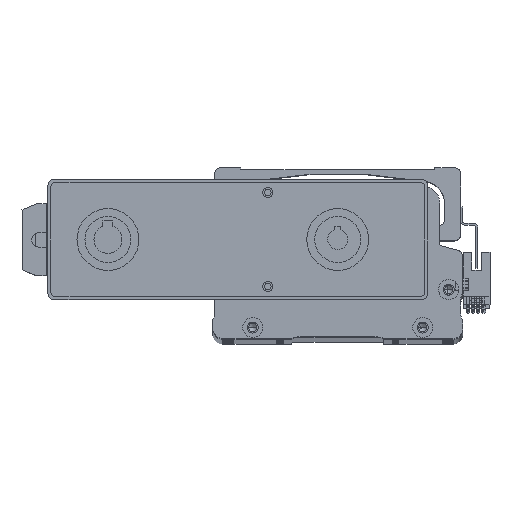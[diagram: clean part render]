
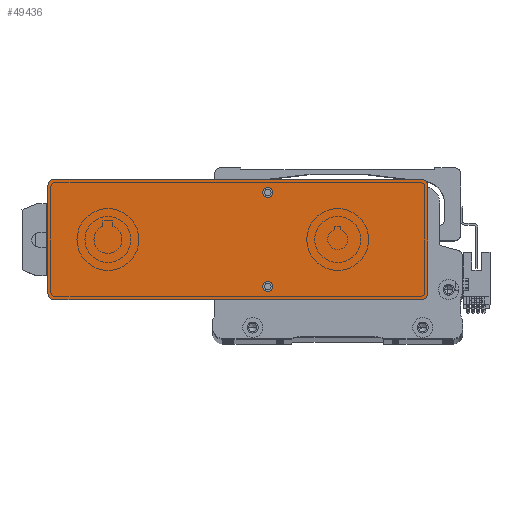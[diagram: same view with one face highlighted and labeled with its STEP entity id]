
A CAD part, top view. The second image highlights one B-rep face of the part: STEP entity #49436.
In plain terms, the highlighted planar face has unit normal (0, 0, 1) as drawn and (0, 0, -1) by its records, which use the part's own axes.
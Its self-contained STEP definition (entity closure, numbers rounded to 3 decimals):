
#152 = LINE ( 'NONE', #72858, #47412 ) ;
#2172 = CARTESIAN_POINT ( 'NONE',  ( -12.5, -23.5, 0. ) ) ;
#2314 = DIRECTION ( 'NONE',  ( 1., 0., 0. ) ) ;
#3944 = AXIS2_PLACEMENT_3D ( 'NONE', #81626, #43255, #4695 ) ;
#4098 = DIRECTION ( 'NONE',  ( 0., 0., -1. ) ) ;
#4695 = DIRECTION ( 'NONE',  ( -1., 0., 0. ) ) ;
#6347 = ORIENTED_EDGE ( 'NONE', *, *, #30665, .T. ) ;
#6436 = AXIS2_PLACEMENT_3D ( 'NONE', #15243, #60104, #21707 ) ;
#6711 = AXIS2_PLACEMENT_3D ( 'NONE', #15683, #60546, #22154 ) ;
#6802 = CARTESIAN_POINT ( 'NONE',  ( 95., -27., 0. ) ) ;
#7789 = CARTESIAN_POINT ( 'NONE',  ( -95., 27., 0. ) ) ;
#9486 = ORIENTED_EDGE ( 'NONE', *, *, #64755, .T. ) ;
#10347 = VECTOR ( 'NONE', #2314, 1000. ) ;
#10495 = ORIENTED_EDGE ( 'NONE', *, *, #47326, .F. ) ;
#11072 = CARTESIAN_POINT ( 'NONE',  ( -15., -23.5, 0. ) ) ;
#11267 = AXIS2_PLACEMENT_3D ( 'NONE', #12743, #57671, #19232 ) ;
#12618 = ORIENTED_EDGE ( 'NONE', *, *, #25900, .T. ) ;
#12743 = CARTESIAN_POINT ( 'NONE',  ( 92., -27., 0. ) ) ;
#12753 = VERTEX_POINT ( 'NONE', #79831 ) ;
#14073 = AXIS2_PLACEMENT_3D ( 'NONE', #70029, #31681, #76487 ) ;
#14359 = FACE_BOUND ( 'NONE', #36141, .T. ) ;
#14955 = CARTESIAN_POINT ( 'NONE',  ( 95., -30., 0. ) ) ;
#15183 = EDGE_LOOP ( 'NONE', ( #62214, #45157, #66976, #12618, #44764, #9486, #72765, #6347 ) ) ;
#15243 = CARTESIAN_POINT ( 'NONE',  ( -15., 23.5, 0. ) ) ;
#15524 = DIRECTION ( 'NONE',  ( 0., 0., -1. ) ) ;
#15683 = CARTESIAN_POINT ( 'NONE',  ( 92., 27., 0. ) ) ;
#17317 = ORIENTED_EDGE ( 'NONE', *, *, #45712, .F. ) ;
#17549 = DIRECTION ( 'NONE',  ( -1., 0., 0. ) ) ;
#18376 = CIRCLE ( 'NONE', #3944, 2.5 ) ;
#18634 = EDGE_CURVE ( 'NONE', #28835, #73176, #39918, .T. ) ;
#19232 = DIRECTION ( 'NONE',  ( 1., 0., 0. ) ) ;
#20332 = CARTESIAN_POINT ( 'NONE',  ( 92., -30., 0. ) ) ;
#20830 = EDGE_CURVE ( 'NONE', #28835, #49489, #46541, .T. ) ;
#21557 = DIRECTION ( 'NONE',  ( 0., 1., 0. ) ) ;
#21707 = DIRECTION ( 'NONE',  ( -1., 0., 0. ) ) ;
#21784 = VERTEX_POINT ( 'NONE', #47299 ) ;
#22154 = DIRECTION ( 'NONE',  ( 1., 0., 0. ) ) ;
#22834 = EDGE_CURVE ( 'NONE', #21784, #37968, #76074, .T. ) ;
#23710 = CIRCLE ( 'NONE', #60627, 3. ) ;
#24714 = CARTESIAN_POINT ( 'NONE',  ( -95., -27., 0. ) ) ;
#25900 = EDGE_CURVE ( 'NONE', #61177, #70266, #29301, .T. ) ;
#26744 = EDGE_CURVE ( 'NONE', #67591, #70266, #152, .T. ) ;
#28835 = VERTEX_POINT ( 'NONE', #6802 ) ;
#29301 = CIRCLE ( 'NONE', #35426, 3. ) ;
#30665 = EDGE_CURVE ( 'NONE', #21784, #73176, #70679, .T. ) ;
#31681 = DIRECTION ( 'NONE',  ( 0., 0., -1. ) ) ;
#32810 = CARTESIAN_POINT ( 'NONE',  ( -17.5, -23.5, 0. ) ) ;
#34019 = VERTEX_POINT ( 'NONE', #2172 ) ;
#34472 = DIRECTION ( 'NONE',  ( 0., -1., 0. ) ) ;
#35426 = AXIS2_PLACEMENT_3D ( 'NONE', #42652, #4098, #49072 ) ;
#36141 = EDGE_LOOP ( 'NONE', ( #50530, #17317 ) ) ;
#37411 = VERTEX_POINT ( 'NONE', #32810 ) ;
#37789 = CARTESIAN_POINT ( 'NONE',  ( 95., 27., 0. ) ) ;
#37968 = VERTEX_POINT ( 'NONE', #58696 ) ;
#38991 = CARTESIAN_POINT ( 'NONE',  ( -17.5, 23.5, 0. ) ) ;
#39749 = DIRECTION ( 'NONE',  ( 1., 0., 0. ) ) ;
#39918 = LINE ( 'NONE', #72930, #72018 ) ;
#40906 = CARTESIAN_POINT ( 'NONE',  ( -92., -30., 0. ) ) ;
#42652 = CARTESIAN_POINT ( 'NONE',  ( -92., -27., 0. ) ) ;
#43255 = DIRECTION ( 'NONE',  ( 0., 0., -1. ) ) ;
#43887 = AXIS2_PLACEMENT_3D ( 'NONE', #64953, #78133, #39749 ) ;
#44583 = LINE ( 'NONE', #14955, #10347 ) ;
#44764 = ORIENTED_EDGE ( 'NONE', *, *, #26744, .F. ) ;
#45157 = ORIENTED_EDGE ( 'NONE', *, *, #20830, .T. ) ;
#45595 = CIRCLE ( 'NONE', #64366, 2.5 ) ;
#45712 = EDGE_CURVE ( 'NONE', #34019, #37411, #45595, .T. ) ;
#46071 = EDGE_CURVE ( 'NONE', #80005, #12753, #66542, .T. ) ;
#46541 = CIRCLE ( 'NONE', #11267, 3. ) ;
#47299 = CARTESIAN_POINT ( 'NONE',  ( 92., 30., 0. ) ) ;
#47326 = EDGE_CURVE ( 'NONE', #12753, #80005, #80418, .T. ) ;
#47412 = VECTOR ( 'NONE', #34472, 1000. ) ;
#48539 = FACE_BOUND ( 'NONE', #74279, .T. ) ;
#49072 = DIRECTION ( 'NONE',  ( 1., 0., 0. ) ) ;
#49436 = ADVANCED_FACE ( 'NONE', ( #48539, #82636, #14359 ), #65225, .F. ) ;
#49489 = VERTEX_POINT ( 'NONE', #20332 ) ;
#50530 = ORIENTED_EDGE ( 'NONE', *, *, #55743, .F. ) ;
#53502 = DIRECTION ( 'NONE',  ( -1., 0., 0. ) ) ;
#53959 = CARTESIAN_POINT ( 'NONE',  ( -92., 27., 0. ) ) ;
#55743 = EDGE_CURVE ( 'NONE', #37411, #34019, #18376, .T. ) ;
#55961 = DIRECTION ( 'NONE',  ( 0., 0., -1. ) ) ;
#57671 = DIRECTION ( 'NONE',  ( 0., 0., -1. ) ) ;
#58696 = CARTESIAN_POINT ( 'NONE',  ( -92., 30., 0. ) ) ;
#60104 = DIRECTION ( 'NONE',  ( 0., 0., -1. ) ) ;
#60388 = DIRECTION ( 'NONE',  ( 1., 0., 0. ) ) ;
#60546 = DIRECTION ( 'NONE',  ( 0., 0., -1. ) ) ;
#60627 = AXIS2_PLACEMENT_3D ( 'NONE', #53959, #15524, #60388 ) ;
#61177 = VERTEX_POINT ( 'NONE', #40906 ) ;
#62214 = ORIENTED_EDGE ( 'NONE', *, *, #18634, .F. ) ;
#64366 = AXIS2_PLACEMENT_3D ( 'NONE', #11072, #55961, #17549 ) ;
#64755 = EDGE_CURVE ( 'NONE', #67591, #37968, #23710, .T. ) ;
#64953 = CARTESIAN_POINT ( 'NONE',  ( 0., 0., 0. ) ) ;
#65225 = PLANE ( 'NONE',  #43887 ) ;
#66112 = CARTESIAN_POINT ( 'NONE',  ( 95., 30., 0. ) ) ;
#66542 = CIRCLE ( 'NONE', #6436, 2.5 ) ;
#66976 = ORIENTED_EDGE ( 'NONE', *, *, #80780, .F. ) ;
#67591 = VERTEX_POINT ( 'NONE', #7789 ) ;
#70029 = CARTESIAN_POINT ( 'NONE',  ( -15., 23.5, 0. ) ) ;
#70266 = VERTEX_POINT ( 'NONE', #24714 ) ;
#70679 = CIRCLE ( 'NONE', #6711, 3. ) ;
#72018 = VECTOR ( 'NONE', #21557, 1000. ) ;
#72765 = ORIENTED_EDGE ( 'NONE', *, *, #22834, .F. ) ;
#72858 = CARTESIAN_POINT ( 'NONE',  ( -95., -30., 0. ) ) ;
#72930 = CARTESIAN_POINT ( 'NONE',  ( 95., -30., 0. ) ) ;
#73176 = VERTEX_POINT ( 'NONE', #37789 ) ;
#74066 = VECTOR ( 'NONE', #53502, 1000. ) ;
#74279 = EDGE_LOOP ( 'NONE', ( #82910, #10495 ) ) ;
#76074 = LINE ( 'NONE', #66112, #74066 ) ;
#76487 = DIRECTION ( 'NONE',  ( -1., 0., 0. ) ) ;
#78133 = DIRECTION ( 'NONE',  ( 0., 0., 1. ) ) ;
#79831 = CARTESIAN_POINT ( 'NONE',  ( -12.5, 23.5, 0. ) ) ;
#80005 = VERTEX_POINT ( 'NONE', #38991 ) ;
#80418 = CIRCLE ( 'NONE', #14073, 2.5 ) ;
#80780 = EDGE_CURVE ( 'NONE', #61177, #49489, #44583, .T. ) ;
#81626 = CARTESIAN_POINT ( 'NONE',  ( -15., -23.5, 0. ) ) ;
#82636 = FACE_OUTER_BOUND ( 'NONE', #15183, .T. ) ;
#82910 = ORIENTED_EDGE ( 'NONE', *, *, #46071, .F. ) ;
